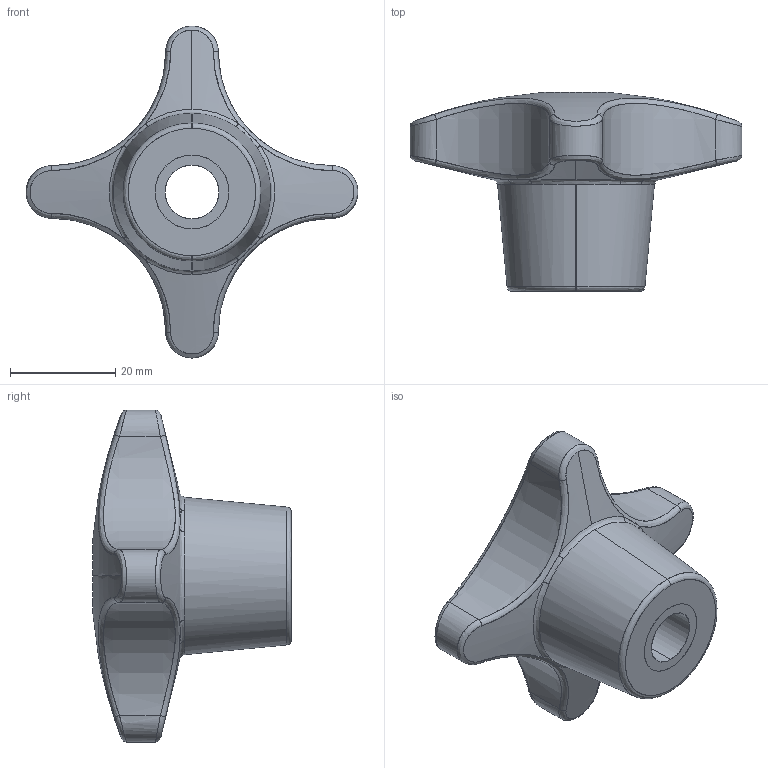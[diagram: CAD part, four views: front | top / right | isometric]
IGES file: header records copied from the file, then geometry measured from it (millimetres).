
Start section: SolidWorks IGES file using analytic representation for surfaces
Global section: file name: C:\Users\Marc\Documents\2 ENGINYERIA\Catalogo 3D\IGS STEP DXF\1121 63 401.IGS; native system: SolidWorks 2010; preprocessor: SolidWorks 2010; author: Marc; date: 101126.165619; units: millimetre
Bounding box: 63 x 37.75 x 63 mm (x, y, z)
Surface area: 10277.6 mm2 (no closed solid volume)
Topology: 0 solids, 0 shells, 62 faces, 907 edges, 907 vertices
Faces by surface type: revolution 32, bspline 30
